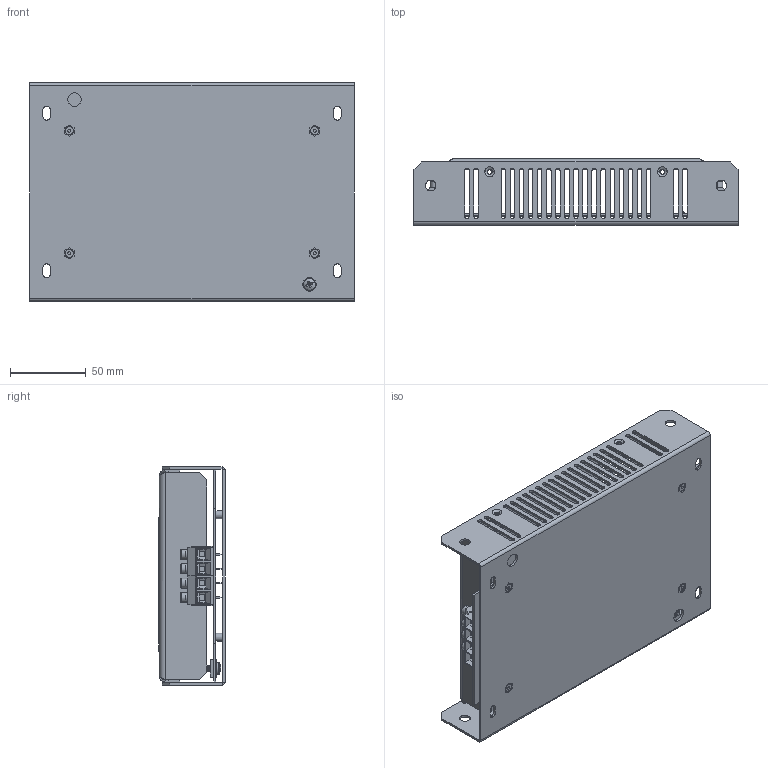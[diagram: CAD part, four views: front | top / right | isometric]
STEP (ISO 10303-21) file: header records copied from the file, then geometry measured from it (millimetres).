
FILE_DESCRIPTION (( 'STEP AP214' ), '1' );
FILE_NAME ('MIF10.STEP', '2019-11-25T11:42:38', ( '' ), ( '' ), 'SwSTEP 2.0', 'SolidWorks 2018', '' );
FILE_SCHEMA (( 'AUTOMOTIVE_DESIGN' ));
Length unit declared in the file: millimetre
Products named in the file (13): Box684B_DEV; SCR287_SCR287; TER730 (V2); NUT207; PCB60B_PCB TER; LBL1631; BOX684A_MIF RES; LBL889; PEM BSO-3.5M3-6 ZI--S_PEM BSO-3.5M3-6 ZI--S; LBL901_PRODUCT LABEL; PCB60B ISS 9; MIF10
Assembly tree (18 placements, depth 3):
  MIF10
    BOX684A_MIF RES
      BOX684A_MIF RES
      PEM BSO-3.5M3-6 ZI--S_PEM BSO-3.5M3-6 ZI--S  x4
      Box684B_DEV
    LBL889
    LBL1631
    LBL901_PRODUCT LABEL
    PCB60B_PCB TER
      PCB60B ISS 9
      TER730 (V2)  x4
    NUT207
    SCR287_SCR287
Bounding box: 214 x 43.63 x 144 mm (x, y, z)
Volume: 153014.1 mm3; surface area: 238636.5 mm2
Topology: 12 solids, 36 shells, 2239 faces, 6055 edges, 3955 vertices
Faces by surface type: plane 1164, cylinder 688, cone 228, bspline 129, torus 20, sphere 10
Entity records: 65148 total; most frequent: CARTESIAN_POINT 17212, ORIENTED_EDGE 8518, DIRECTION 8148, EDGE_CURVE 4293, VERTEX_POINT 2816, LINE 2796, VECTOR 2796, AXIS2_PLACEMENT_3D 2676
